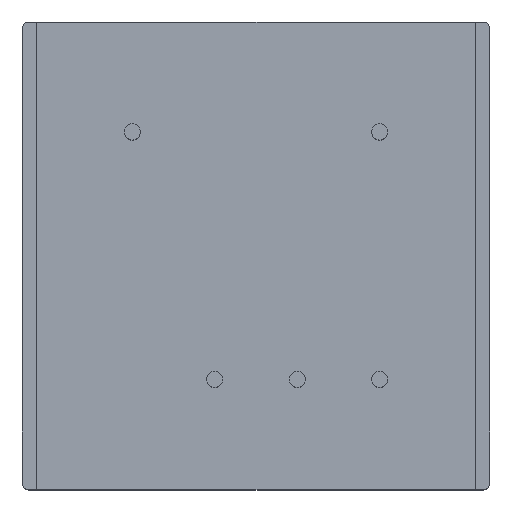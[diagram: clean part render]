
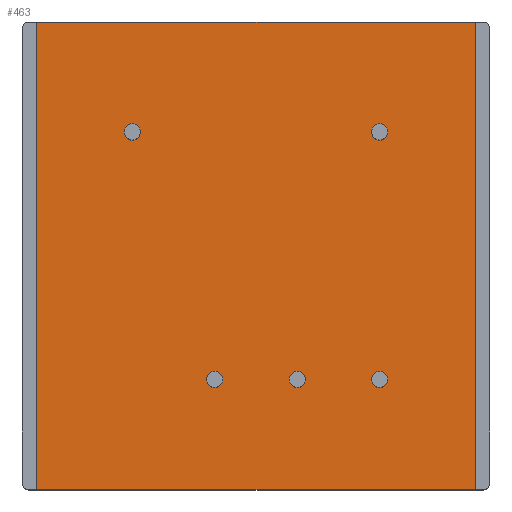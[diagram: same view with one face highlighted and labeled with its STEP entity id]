
A CAD part, top view. The second image highlights one B-rep face of the part: STEP entity #463.
In plain terms, the highlighted planar face has unit normal (0, 0, 1).
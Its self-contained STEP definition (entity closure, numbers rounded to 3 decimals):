
#19=LINE('',#743,#51);
#20=LINE('',#745,#52);
#21=LINE('',#747,#53);
#22=LINE('',#748,#54);
#51=VECTOR('',#595,14.4);
#52=VECTOR('',#596,13.5);
#53=VECTOR('',#597,14.4);
#54=VECTOR('',#598,13.5);
#88=PLANE('',#509);
#104=FACE_BOUND('',#161,.T.);
#105=FACE_BOUND('',#162,.T.);
#106=FACE_BOUND('',#163,.T.);
#107=FACE_BOUND('',#164,.T.);
#108=FACE_BOUND('',#165,.T.);
#121=FACE_OUTER_BOUND('',#160,.T.);
#160=EDGE_LOOP('',(#334,#335,#336,#337));
#161=EDGE_LOOP('',(#338));
#162=EDGE_LOOP('',(#339));
#163=EDGE_LOOP('',(#340));
#164=EDGE_LOOP('',(#341));
#165=EDGE_LOOP('',(#342));
#192=CIRCLE('',#491,0.25);
#194=CIRCLE('',#495,0.25);
#196=CIRCLE('',#499,0.25);
#198=CIRCLE('',#503,0.25);
#200=CIRCLE('',#507,0.25);
#220=VERTEX_POINT('',#713);
#222=VERTEX_POINT('',#719);
#224=VERTEX_POINT('',#725);
#226=VERTEX_POINT('',#731);
#228=VERTEX_POINT('',#737);
#229=VERTEX_POINT('',#741);
#230=VERTEX_POINT('',#742);
#231=VERTEX_POINT('',#744);
#232=VERTEX_POINT('',#746);
#260=EDGE_CURVE('',#220,#220,#192,.T.);
#262=EDGE_CURVE('',#222,#222,#194,.T.);
#264=EDGE_CURVE('',#224,#224,#196,.T.);
#266=EDGE_CURVE('',#226,#226,#198,.T.);
#268=EDGE_CURVE('',#228,#228,#200,.T.);
#269=EDGE_CURVE('',#229,#230,#19,.T.);
#270=EDGE_CURVE('',#231,#230,#20,.T.);
#271=EDGE_CURVE('',#232,#231,#21,.T.);
#272=EDGE_CURVE('',#229,#232,#22,.T.);
#334=ORIENTED_EDGE('',*,*,#269,.T.);
#335=ORIENTED_EDGE('',*,*,#270,.F.);
#336=ORIENTED_EDGE('',*,*,#271,.F.);
#337=ORIENTED_EDGE('',*,*,#272,.F.);
#338=ORIENTED_EDGE('',*,*,#260,.T.);
#339=ORIENTED_EDGE('',*,*,#262,.T.);
#340=ORIENTED_EDGE('',*,*,#264,.T.);
#341=ORIENTED_EDGE('',*,*,#266,.T.);
#342=ORIENTED_EDGE('',*,*,#268,.T.);
#463=ADVANCED_FACE('',(#121,#104,#105,#106,#107,#108),#88,.T.);
#491=AXIS2_PLACEMENT_3D('',#714,#557,#558);
#495=AXIS2_PLACEMENT_3D('',#720,#565,#566);
#499=AXIS2_PLACEMENT_3D('',#726,#573,#574);
#503=AXIS2_PLACEMENT_3D('',#732,#581,#582);
#507=AXIS2_PLACEMENT_3D('',#738,#589,#590);
#509=AXIS2_PLACEMENT_3D('',#740,#593,#594);
#557=DIRECTION('center_axis',(0.,0.,-1.));
#558=DIRECTION('ref_axis',(-1.,0.,0.));
#565=DIRECTION('center_axis',(0.,0.,-1.));
#566=DIRECTION('ref_axis',(-1.,0.,0.));
#573=DIRECTION('center_axis',(0.,0.,-1.));
#574=DIRECTION('ref_axis',(-1.,0.,0.));
#581=DIRECTION('center_axis',(0.,0.,-1.));
#582=DIRECTION('ref_axis',(-1.,0.,0.));
#589=DIRECTION('center_axis',(0.,0.,-1.));
#590=DIRECTION('ref_axis',(-1.,0.,0.));
#593=DIRECTION('center_axis',(0.,0.,1.));
#594=DIRECTION('ref_axis',(1.,0.,0.));
#595=DIRECTION('',(0.,1.,0.));
#596=DIRECTION('',(1.,0.,0.));
#597=DIRECTION('',(0.,1.,0.));
#598=DIRECTION('',(-1.,0.,0.));
#713=CARTESIAN_POINT('',(4.06,-3.81,7.75));
#714=CARTESIAN_POINT('Origin',(3.81,-3.81,7.75));
#719=CARTESIAN_POINT('',(4.06,3.81,7.75));
#720=CARTESIAN_POINT('Origin',(3.81,3.81,7.75));
#725=CARTESIAN_POINT('',(-3.56,3.81,7.75));
#726=CARTESIAN_POINT('Origin',(-3.81,3.81,7.75));
#731=CARTESIAN_POINT('',(-1.02,-3.81,7.75));
#732=CARTESIAN_POINT('Origin',(-1.27,-3.81,7.75));
#737=CARTESIAN_POINT('',(1.52,-3.81,7.75));
#738=CARTESIAN_POINT('Origin',(1.27,-3.81,7.75));
#740=CARTESIAN_POINT('Origin',(0.,0.,7.75));
#741=CARTESIAN_POINT('',(6.75,-7.2,7.75));
#742=CARTESIAN_POINT('',(6.75,7.2,7.75));
#743=CARTESIAN_POINT('',(6.75,-3.6,7.75));
#744=CARTESIAN_POINT('',(-6.75,7.2,7.75));
#745=CARTESIAN_POINT('',(-7.2,7.2,7.75));
#746=CARTESIAN_POINT('',(-6.75,-7.2,7.75));
#747=CARTESIAN_POINT('',(-6.75,-3.6,7.75));
#748=CARTESIAN_POINT('',(7.2,-7.2,7.75));
